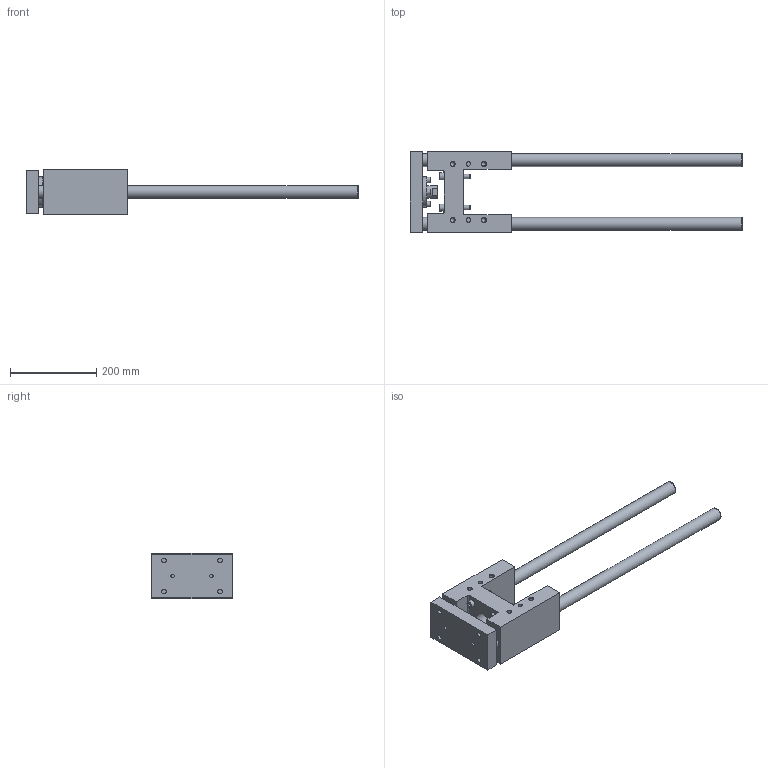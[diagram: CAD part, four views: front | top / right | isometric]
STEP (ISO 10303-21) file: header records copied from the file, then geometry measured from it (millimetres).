
FILE_DESCRIPTION( ( 'STEP AP214' ), '1' );
FILE_NAME( 'U:/Etudes/Top Solid/BIBLIO 3D AVM/TOP/PNEUMATIQUE/GUIDAGES/Type 32 (en H)/R_Renforcée/328R8130.step', '2005-05-27T09:12:13', ( ' ' ), ( ' ' ), 'XStep 1.0', ' ', ' ' );
FILE_SCHEMA( ( 'automotive_design' ) );
Length unit declared in the file: metre
Products named in the file (2): 1; 2
Bounding box: 769 x 189 x 105 mm (x, y, z)
Volume: 3480357.6 mm3; surface area: 425904.9 mm2
Topology: 2 solids, 7 shells, 209 faces, 472 edges, 313 vertices
Faces by surface type: plane 118, cylinder 70, cone 21
Full cylindrical faces by diameter (mm): 8 x10, 8.5 x4, 10 x10, 10.106 x12, 11 x8, 13 x4, 16 x4, 18 x4, 18.376 x2, 29 x1, 30 x4, 32 x1, 42 x1, 45 x2, 70 x1
Entity records: 7075 total; most frequent: CARTESIAN_POINT 1101, DIRECTION 894, ORIENTED_EDGE 690, EDGE_LOOP 362, AXIS2_PLACEMENT_3D 346, EDGE_CURVE 345, VERTEX_POINT 281, FACE_OUTER_BOUND 277
